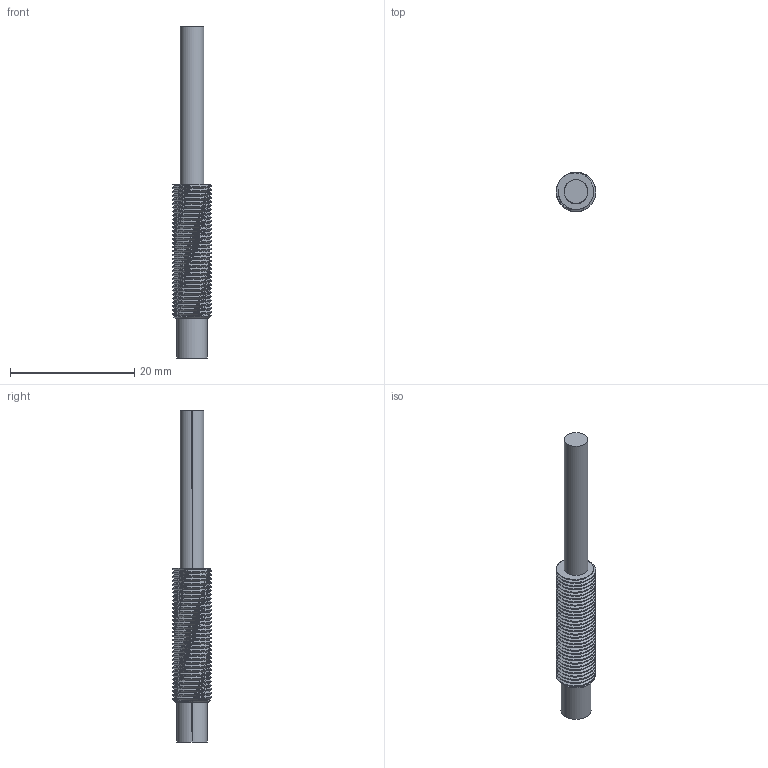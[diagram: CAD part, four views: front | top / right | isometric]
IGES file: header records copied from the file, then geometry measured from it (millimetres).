
Start section: SolidWorks IGES file using analytic representation for surfaces
Global section: file name: C:\Documents and Settings\Administrator\My Documents\EDI\3D\finished sensors\5U.IGS; native system: SolidWorks 2008; preprocessor: SolidWorks 2008; author: Administrator; date: 100304.193652; units: inch
Bounding box: 6.35 x 6.35 x 53.34 mm (x, y, z)
Surface area: 1107.5 mm2 (no closed solid volume)
Topology: 0 solids, 0 shells, 80 faces, 2160 edges, 2160 vertices
Faces by surface type: revolution 73, bspline 7
